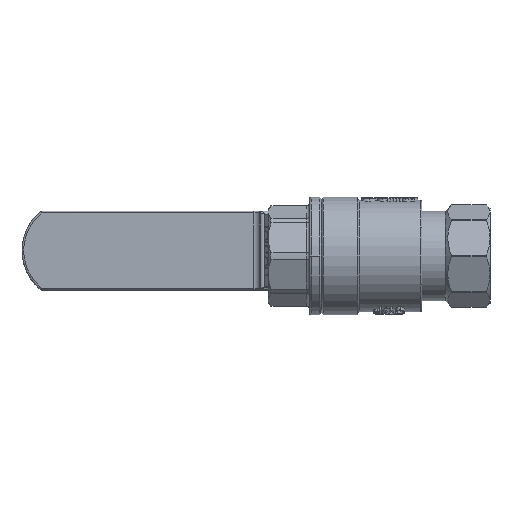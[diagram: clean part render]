
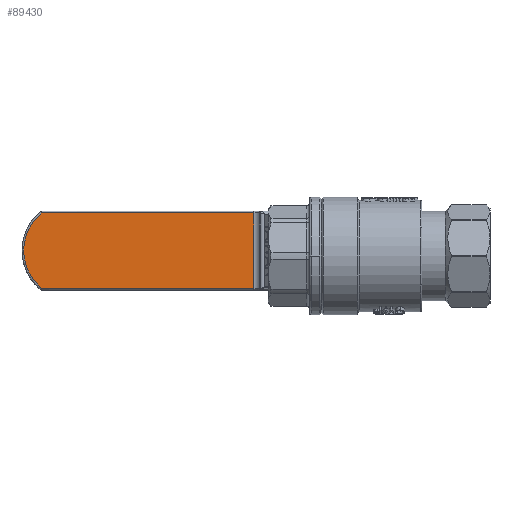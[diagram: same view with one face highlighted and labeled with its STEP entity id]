
A CAD part, front view. The second image highlights one B-rep face of the part: STEP entity #89430.
In plain terms, the highlighted planar face has unit normal (0, -1, 0).
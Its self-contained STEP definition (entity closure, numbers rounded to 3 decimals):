
#3184 = ORIENTED_EDGE ( 'NONE', *, *, #71215, .T. ) ;
#4107 = CARTESIAN_POINT ( 'NONE',  ( -63.662, -4., 10.5 ) ) ;
#4555 = CARTESIAN_POINT ( 'NONE',  ( -13., -4., 0. ) ) ;
#6848 = DIRECTION ( 'NONE',  ( 0., 0., -1. ) ) ;
#13528 = EDGE_CURVE ( 'NONE', #27902, #24270, #68629, .T. ) ;
#18297 = VERTEX_POINT ( 'NONE', #40601 ) ;
#20091 = CARTESIAN_POINT ( 'NONE',  ( -63.662, -4., -10.5 ) ) ;
#22701 = PLANE ( 'NONE',  #42445 ) ;
#23538 = FACE_OUTER_BOUND ( 'NONE', #71839, .T. ) ;
#24270 = VERTEX_POINT ( 'NONE', #85266 ) ;
#25500 = EDGE_CURVE ( 'NONE', #74753, #27902, #63094, .T. ) ;
#27902 = VERTEX_POINT ( 'NONE', #20091 ) ;
#35027 = DIRECTION ( 'NONE',  ( 1., 0., 0. ) ) ;
#37506 = CARTESIAN_POINT ( 'NONE',  ( -63.662, -4., 10. ) ) ;
#38359 = ORIENTED_EDGE ( 'NONE', *, *, #25500, .T. ) ;
#40149 = CIRCLE ( 'NONE', #70836, 13.5 ) ;
#40601 = CARTESIAN_POINT ( 'NONE',  ( -4.515, -4., 10.5 ) ) ;
#42445 = AXIS2_PLACEMENT_3D ( 'NONE', #37506, #66236, #89050 ) ;
#43380 = ORIENTED_EDGE ( 'NONE', *, *, #51124, .T. ) ;
#49263 = DIRECTION ( 'NONE',  ( 0., 0., 1. ) ) ;
#51124 = EDGE_CURVE ( 'NONE', #18297, #74753, #57271, .T. ) ;
#51477 = ORIENTED_EDGE ( 'NONE', *, *, #13528, .T. ) ;
#57271 = LINE ( 'NONE', #4107, #64195 ) ;
#63094 = LINE ( 'NONE', #95052, #84928 ) ;
#64195 = VECTOR ( 'NONE', #84856, 1000. ) ;
#66236 = DIRECTION ( 'NONE',  ( 0., 1., 0. ) ) ;
#67432 = VECTOR ( 'NONE', #35027, 1000. ) ;
#68629 = LINE ( 'NONE', #71772, #67432 ) ;
#70836 = AXIS2_PLACEMENT_3D ( 'NONE', #4555, #71183, #49263 ) ;
#71183 = DIRECTION ( 'NONE',  ( 0., -1., 0. ) ) ;
#71215 = EDGE_CURVE ( 'NONE', #24270, #18297, #40149, .T. ) ;
#71772 = CARTESIAN_POINT ( 'NONE',  ( -63.662, -4., -10.5 ) ) ;
#71839 = EDGE_LOOP ( 'NONE', ( #38359, #51477, #3184, #43380 ) ) ;
#74753 = VERTEX_POINT ( 'NONE', #75032 ) ;
#75032 = CARTESIAN_POINT ( 'NONE',  ( -63.662, -4., 10.5 ) ) ;
#84856 = DIRECTION ( 'NONE',  ( -1., 0., 0. ) ) ;
#84928 = VECTOR ( 'NONE', #6848, 1000. ) ;
#85266 = CARTESIAN_POINT ( 'NONE',  ( -4.515, -4., -10.5 ) ) ;
#89050 = DIRECTION ( 'NONE',  ( 0., 0., 1. ) ) ;
#89430 = ADVANCED_FACE ( 'NONE', ( #23538 ), #22701, .F. ) ;
#95052 = CARTESIAN_POINT ( 'NONE',  ( -63.662, -4., 10. ) ) ;
